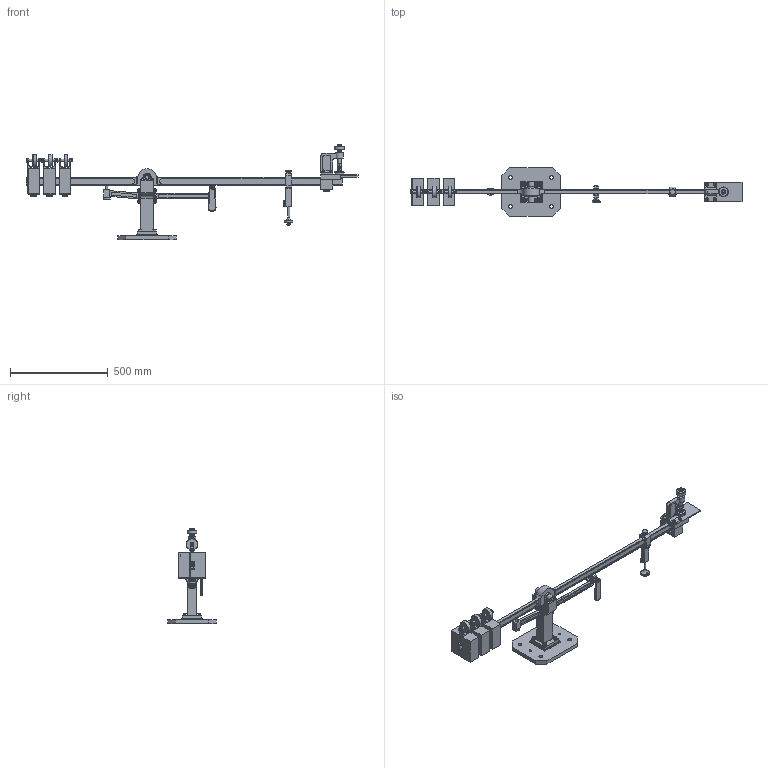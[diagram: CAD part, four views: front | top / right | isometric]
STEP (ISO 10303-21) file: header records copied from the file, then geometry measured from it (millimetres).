
FILE_DESCRIPTION(/* description */ (''),/* implementation_level */ '2;1');
FILE_NAME(/* name */ 'М-0130.000 Весы для измерения статического момента.stp',/* time_stamp */ '2026-03-23T17:29:30+03:00',/* author */ (''),/* organization */ (''),/* preprocessor_version */ 'ST-DEVELOPER v20.1',/* originating_system */ 'SIEMENS PLM Software NX2512.4001',/* authorisation */ '');
FILE_SCHEMA (('AUTOMOTIVE_DESIGN { 1 0 10303 214 3 1 1 1 }'));
Length unit declared in the file: millimetre
Products named in the file (46): Штифт 5x16 ГОСТ 
24296-93; Штифт 5x22 ГОСТ 
24296-93; М-0130.023 Кулачок; М-0130.022 Ручка; Ось 5-12 h11x80 ГОСТ 
9650-80_stp; М-0130.021 Держатель; М-0130.020 Балка; Болт М10x20 ГОСТ 
7802-81; Винт с полукруглой 
головкой и шестигранным 
углублением ГОСТ 
ISO 7380-1 - М6 x 12; Шайба A.6.37 ГОСТ 
11371-78; Шайба A.10.37 ГОСТ 
11371-78; Шайба A.8.37 ГОСТ 
11371-78; Винт М6-6gx20.88.40Х 
ГОСТ 11738-84; М-0130.018 Шток; М-0130.017 Опора; М-0130.016 Брусок; Винт A.М8x16 ГОСТ 
21331-75; Винт М8-6gx50.88.40Х 
ГОСТ 11738-84; М-0130.015 Брусок; Винт с полукруглой 
головкой и шестигранным 
углублением ГОСТ 
ISO 7380-1 - М8 x 20; Гайка М16-6H ГОСТ 
2526-70; М-0130.014 Гайка; ПКИ_Опора шарнирная 
с пластиной антискольжения; М-0130.013 Стойка; М-0130.012 Стол; Винт М10-6gx30.88.40Х 
ГОСТ 11738-84; Винт М8-6gx16 ГОСТ 
11738-84; Винт с полукруглой 
головкой и шестигранным 
углублением ГОСТ 
ISO 7380-1 - М8 x 16 (2); Винт М8-6gx40 ГОСТ 
11738-84; М-0130.011 Грузик; Гайка М10-6H ГОСТ 
5927-70; Болт М10x70.88.40Х 
ГОСТ Р 50793-95; М-0130.010 Стойка; Винт A.М8x25 ГОСТ 
21331-75; Винт A.М10x50 ГОСТ 
21331-75; М-0130.009 Груз; М-0130.008 Груз; М-0130.007 Опора; Подшипник 205 ГОСТ 
8338-75; М-0130.006 Втулка ...
Assembly tree (109 placements, depth 2):
  М-0130.000 Весы для измерения 
статического момента
    М-0130.001 Основание
    М-0130.002 Стойка
    М-0130.003 Штанга
    М-0130.004 Ось
    М-0130.005 Опора  x2
    М-0130.006 Втулка  x2
    Подшипник 205 ГОСТ 
8338-75
    М-0130.007 Опора
    М-0130.008 Груз  x3
    М-0130.009 Груз  x3
    Винт A.М10x50 ГОСТ 
21331-75
    Винт A.М8x25 ГОСТ 
21331-75  x3
    М-0130.010 Стойка  x3
    Болт М10x70.88.40Х 
ГОСТ Р 50793-95  x3
    Гайка М10-6H ГОСТ 
5927-70  x3
    М-0130.011 Грузик  x3
    Винт М8-6gx40 ГОСТ 
11738-84  x6
    Винт с полукруглой 
головкой и шестигранным 
углублением ГОСТ 
ISO 7380-1 - М8 x 16 (2)  x4
    Винт М8-6gx16 ГОСТ 
11738-84  x6
    Винт М10-6gx30.88.40Х 
ГОСТ 11738-84  x4
    М-0130.012 Стол
    М-0130.013 Стойка
    ПКИ_Опора шарнирная 
с пластиной антискольжения
    М-0130.014 Гайка
    Гайка М16-6H ГОСТ 
2526-70  x2
    Винт с полукруглой 
головкой и шестигранным 
углублением ГОСТ 
ISO 7380-1 - М8 x 20  x5
    М-0130.015 Брусок
    Винт М8-6gx50.88.40Х 
ГОСТ 11738-84  x4
    Винт A.М8x16 ГОСТ 
21331-75  x2
    М-0130.016 Брусок
    М-0130.017 Опора
    М-0130.018 Шток
    Винт М6-6gx20.88.40Х 
ГОСТ 11738-84  x4
    Шайба A.8.37 ГОСТ 
11371-78  x8
    Шайба A.10.37 ГОСТ 
11371-78  x4
    Шайба A.6.37 ГОСТ 
11371-78  x6
    Винт с полукруглой 
головкой и шестигранным 
углублением ГОСТ 
ISO 7380-1 - М6 x 12  x6
    Болт М10x20 ГОСТ 
7802-81
    М-0130.020 Балка
    М-0130.021 Держатель
    Ось 5-12 h11x80 ГОСТ 
9650-80_stp
    М-0130.022 Ручка
    М-0130.023 Кулачок
    Штифт 5x22 ГОСТ 
24296-93
    Штифт 5x16 ГОСТ 
24296-93
Bounding box: 1700 x 250 x 486.5 mm (x, y, z)
Volume: 8291108 mm3; surface area: 1263202.8 mm2
Topology: 120 solids, 120 shells, 2122 faces, 4839 edges, 3025 vertices
Faces by surface type: plane 1177, cylinder 459, cone 374, torus 76, sphere 28, bspline 7, extrusion 1
Full cylindrical faces by diameter (mm): 5 x22, 6 x31, 6.4 x6, 6.5 x4, 6.7 x5, 6.8 x23, 7 x6, 7.7 x1, 8 x34, 8.376 x3, 8.4 x8, 8.43 x1, 8.5 x8, 9 x23, 10 x23, 10.5 x4, 11 x4, 12 x11, 13 x17, 13.835 x2, 14 x7, 14.63 x3, 15 x10, 16 x20, 17 x2, 18 x7, 19 x2, 20 x9, 22 x2, 23 x1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
Entity records: 34389 total; most frequent: CARTESIAN_POINT 9661, DIRECTION 4976, ORIENTED_EDGE 4018, EDGE_CURVE 2009, AXIS2_PLACEMENT_3D 1958, EDGE_LOOP 1636, VERTEX_POINT 1499, FACE_BOUND 1129
